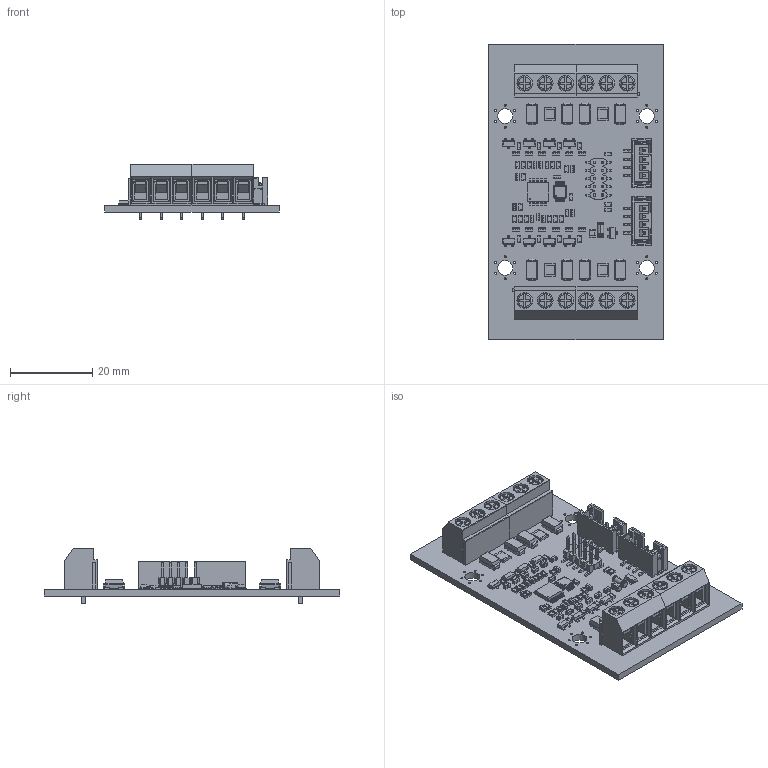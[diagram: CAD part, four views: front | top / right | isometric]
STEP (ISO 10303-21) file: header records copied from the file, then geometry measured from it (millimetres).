
FILE_DESCRIPTION(('Open CASCADE Model'),'2;1');
FILE_NAME('Open CASCADE Shape Model','2023-07-29T16:06:58',('Author'),( 'Open CASCADE'),'Open CASCADE STEP processor 6.8','Open CASCADE 6.8' ,'Unknown');
FILE_SCHEMA(('AUTOMOTIVE_DESIGN { 1 0 10303 214 1 1 1 1 }'));
Length unit declared in the file: millimetre
Products named in the file (100): PCB; Board; C1; GRM188; C2; C3; C4; C5; C6; C7; C8; C9; C11; C12; GRM21B; D1; SMAJXXCA; D2; D3; D4; D5; D6; D7; D8; D9; FDN306P; D10; D11; D12; D13; D14; D15; D16; J1; DT-126VP-06P; DT-126VP-03P; J2; J3; CH71102M100-0P; 12P_10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
Assembly tree (181 placements, depth 4):
  PCB
    Board
    C1
      GRM188
    C2
      GRM188
    C3
      GRM188
    C4
      GRM188
    C5
      GRM188
    C6
      GRM188
    C7
      GRM188
    C8
      GRM188
    C9
      GRM188
    C11
      GRM188
    C12
      GRM21B
    D1
      SMAJXXCA
    D2
      SMAJXXCA
    D3
      SMAJXXCA
    D4
      SMAJXXCA
    D5
      SMAJXXCA
    D6
      SMAJXXCA
    D7
      SMAJXXCA
    D8
      SMAJXXCA
    D9
      FDN306P
    D10
      FDN306P
    D11
      FDN306P
    D12
      FDN306P
    D13
      FDN306P
    D14
      FDN306P
    D15
      FDN306P
    D16
      FDN306P
    J1
      DT-126VP-06P
        DT-126VP-03P  x2
    J2
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Bounding box: 42.5 x 72 x 13.6 mm (x, y, z)
Volume: 9339.9 mm3; surface area: 16103.2 mm2
Topology: 139 solids, 139 shells, 7750 faces, 19293 edges, 11542 vertices
Faces by surface type: plane 4219, cylinder 2527, torus 564, sphere 360, bspline 80
Full cylindrical faces by diameter (mm): 0.225 x1, 0.5 x24, 1.5 x12, 3.6 x4
Entity records: 58331 total; most frequent: CARTESIAN_POINT 9105, DIRECTION 8464, ORIENTED_EDGE 8130, EDGE_CURVE 4065, LINE 2990, VECTOR 2990, AXIS2_PLACEMENT_3D 2737, VERTEX_POINT 2560
